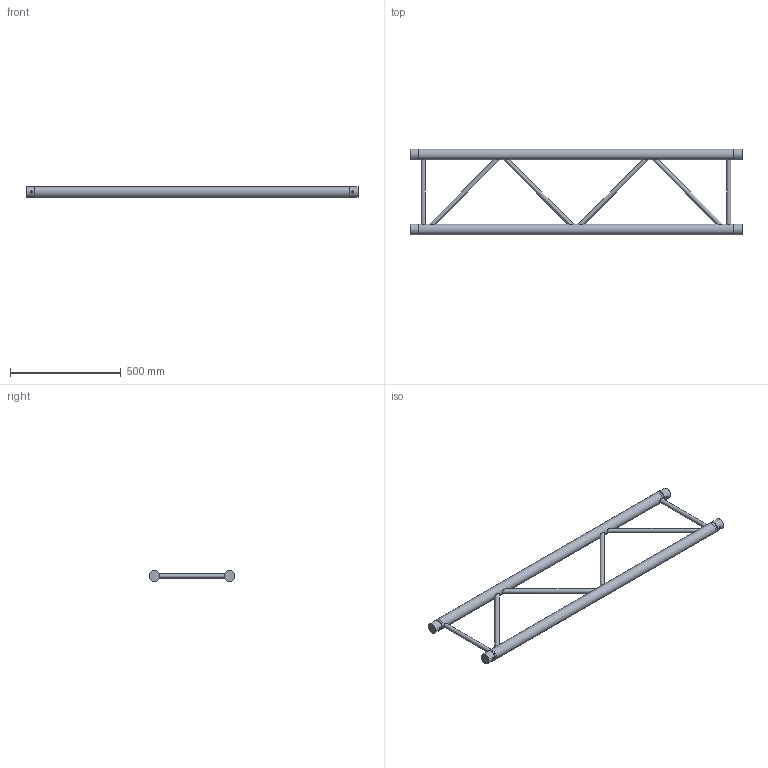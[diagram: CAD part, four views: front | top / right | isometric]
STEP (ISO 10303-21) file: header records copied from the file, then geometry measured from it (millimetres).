
FILE_DESCRIPTION(/* description */ (''),/* implementation_level */ '2;1');
FILE_NAME(/* name */ 'C:\Users\stephan\Desktop\Nieuwe map\H40L\111050154.stp',/* time_stamp */ '2016-09-12T12:51:48+02:00',/* author */ ('Stephan'),/* organization */ (''),/* preprocessor_version */ 'ST-DEVELOPER v15.6',/* originating_system */ 'Autodesk Inventor 2015',/* authorisation */ '');
FILE_SCHEMA (('AUTOMOTIVE_DESIGN { 1 0 10303 214 3 1 1 }'));
Length unit declared in the file: millimetre
Products named in the file (1): 160026983
Bounding box: 1500 x 387.3 x 48.3 mm (x, y, z)
Volume: 2240808.4 mm3; surface area: 1002193 mm2
Topology: 8 solids, 10 shells, 58 faces, 98 edges, 64 vertices
Faces by surface type: plane 32, cylinder 22, cone 4
Full cylindrical faces by diameter (mm): 10 x4, 20 x6, 41.8 x4, 42.3 x2, 48.3 x6
Entity records: 1614 total; most frequent: CARTESIAN_POINT 463, DIRECTION 210, ORIENTED_EDGE 136, EDGE_LOOP 104, AXIS2_PLACEMENT_3D 103, EDGE_CURVE 64, STYLED_ITEM 63, VERTEX_POINT 60
